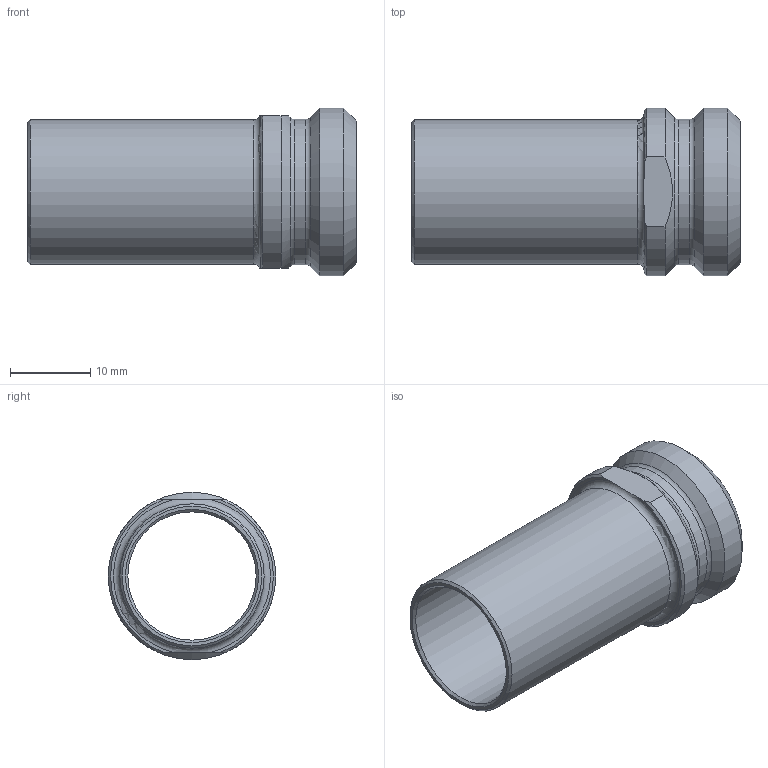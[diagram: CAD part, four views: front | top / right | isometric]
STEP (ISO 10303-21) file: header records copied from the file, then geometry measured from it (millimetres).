
FILE_DESCRIPTION(/* description */ (''),/* implementation_level */ '2;1');
FILE_NAME(/* name */ 'C:\Users\cad\Desktop\Zeichnungen neu von Ralph\3D_Kupplung_R666-PG\3D_R666-PG-18-DN15_17113671.stp',/* time_stamp */ '2021-06-23T11:26:40+02:00',/* author */ ('cad'),/* organization */ (''),/* preprocessor_version */ 'ST-DEVELOPER v18.1',/* originating_system */ 'Autodesk Inventor 2022',/* authorisation */ '');
FILE_SCHEMA (('AUTOMOTIVE_DESIGN { 1 0 10303 214 3 1 1 }'));
Length unit declared in the file: millimetre
Products named in the file (1): 3D_R666-PG-18-DN15_17113671
Bounding box: 41 x 20.9 x 20.9 mm (x, y, z)
Volume: 2845.7 mm3; surface area: 4672.7 mm2
Topology: 1 solids, 1 shells, 23 faces, 62 edges, 41 vertices
Faces by surface type: cone 8, plane 6, cylinder 6, torus 3
Full cylindrical faces by diameter (mm): 16 x1, 18 x1, 18.1 x1, 20.9 x1
Entity records: 795 total; most frequent: CARTESIAN_POINT 158, DIRECTION 136, ORIENTED_EDGE 124, EDGE_CURVE 62, AXIS2_PLACEMENT_3D 59, VERTEX_POINT 41, CIRCLE 35, EDGE_LOOP 25
